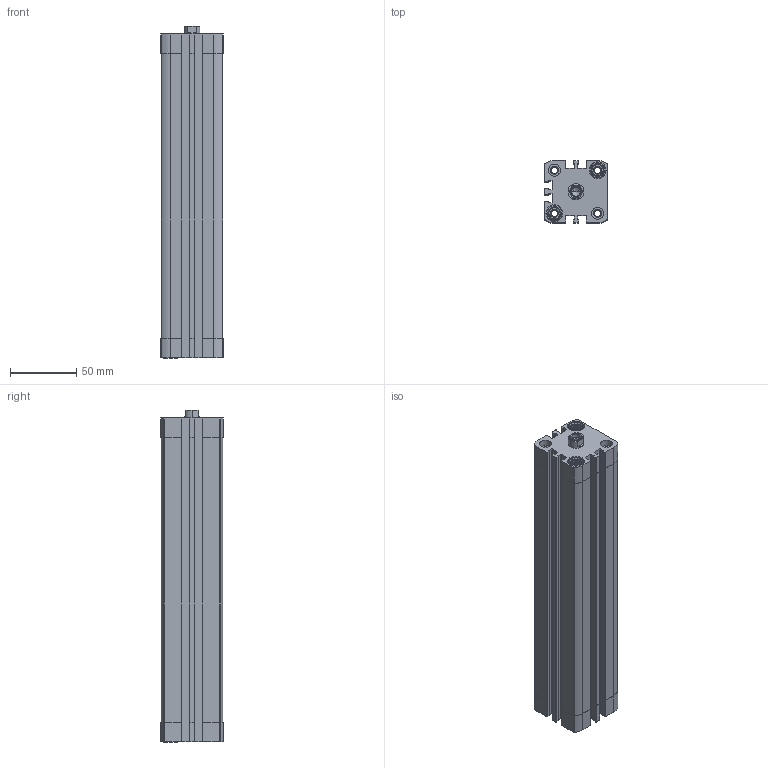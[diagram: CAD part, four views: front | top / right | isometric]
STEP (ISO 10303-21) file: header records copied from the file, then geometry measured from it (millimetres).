
FILE_DESCRIPTION (( 'STEP AP203' ), '1' );
FILE_NAME ('CCN32-200F.STEP', '2017-03-29T11:41:26', ( '' ), ( '' ), 'SwSTEP 2.0', 'SolidWorks 2016', '' );
FILE_SCHEMA (( 'CONFIG_CONTROL_DESIGN' ));
Length unit declared in the file: millimetre
Products named in the file (3): CCN-200---(Z); CCN-200_(KS); CCN32-200F
Assembly tree (2 placements, depth 2):
  CCN32-200F
    CCN-200---(Z)
    CCN-200_(KS)
Bounding box: 47 x 47 x 250 mm (x, y, z)
Volume: 304006 mm3; surface area: 122290.2 mm2
Topology: 2 solids, 2 shells, 479 faces, 1304 edges, 859 vertices
Faces by surface type: plane 267, cylinder 170, cone 42
Entity records: 15649 total; most frequent: CARTESIAN_POINT 2939, DIRECTION 2664, ORIENTED_EDGE 2604, EDGE_CURVE 1302, AXIS2_PLACEMENT_3D 976, VERTEX_POINT 859, VECTOR 712, LINE 712
